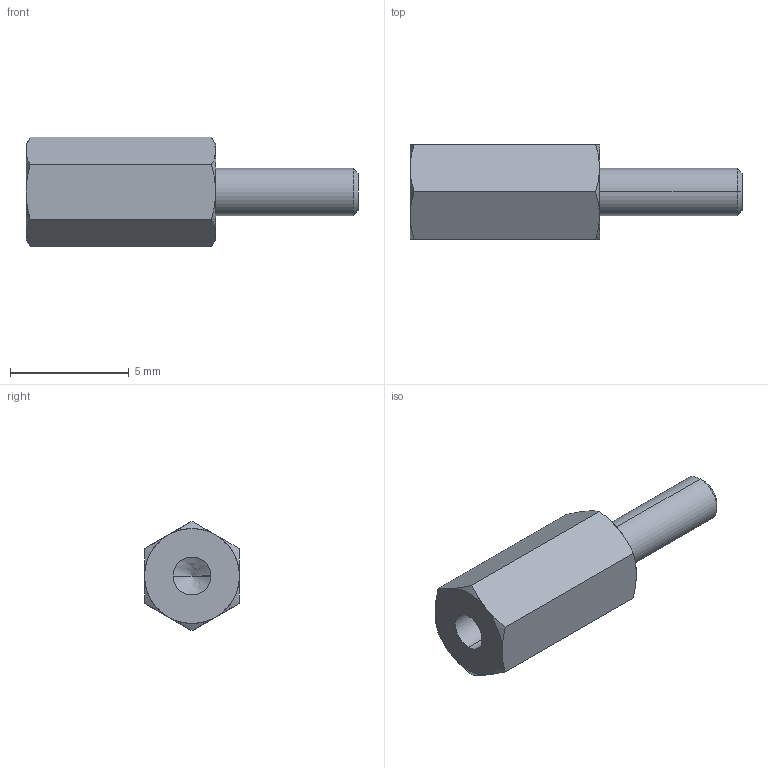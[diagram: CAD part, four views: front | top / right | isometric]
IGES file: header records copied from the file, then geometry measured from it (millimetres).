
Start section: SolidWorks IGES file using analytic representation for surfaces
Global section: file name: C:\Users\render1\Desktop\P0185_IGES\P0185.02-08.igs; native system: SolidWorks 2009; preprocessor: SolidWorks 2009; author: render1; date: 130627.111243; units: millimetre
Bounding box: 14 x 4 x 4.62 mm (x, y, z)
Surface area: 199.6 mm2 (no closed solid volume)
Topology: 0 solids, 0 shells, 29 faces, 292 edges, 290 vertices
Faces by surface type: revolution 20, bspline 9
